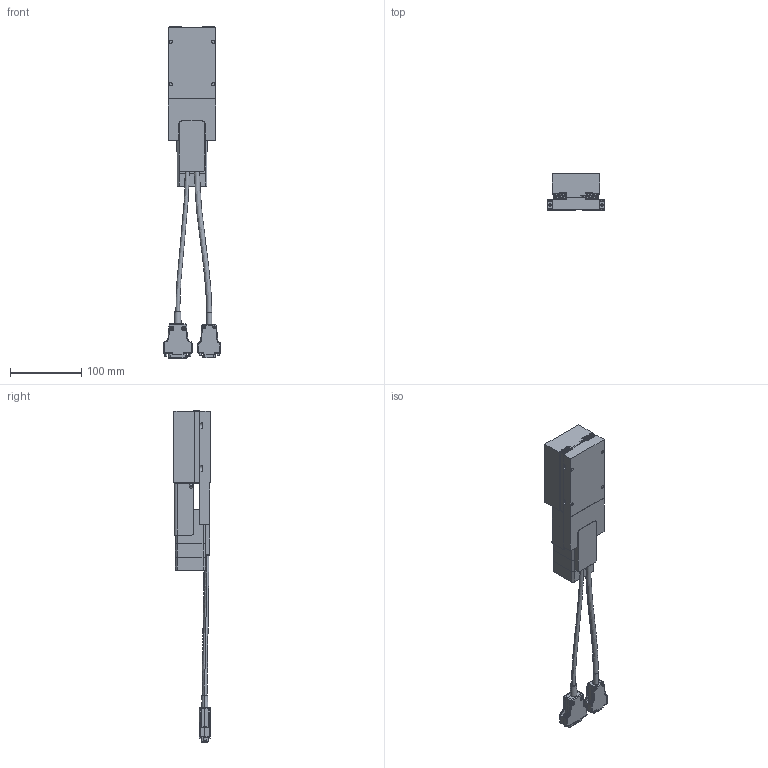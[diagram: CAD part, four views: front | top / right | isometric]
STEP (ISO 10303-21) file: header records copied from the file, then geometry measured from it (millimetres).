
FILE_DESCRIPTION (( 'STEP AP214' ), '1' );
FILE_NAME ('MCS-050-A-H-S-EXPORT.STEP', '2025-09-10T20:06:59', ( 'lab' ), ( '' ), 'SwSTEP 2.0', 'SolidWorks 2018', '' );
FILE_SCHEMA (( 'AUTOMOTIVE_DESIGN' ));
Length unit declared in the file: millimetre
Products named in the file (8): 1000001_file_export8; 1000002_file_export4; 1000007_NSRM; 1000009_file_export7; MCS-050-A-H-S-EXPORT; 1000008_file_export2; 1000003_file_export0; 1000004
Assembly tree (7 placements, depth 2):
  MCS-050-A-H-S-EXPORT
    1000001_file_export8
    1000002_file_export4
    1000003_file_export0
    1000004
    1000007_NSRM
    1000008_file_export2
    1000009_file_export7
Bounding box: 80 x 51 x 467.1 mm (x, y, z)
Volume: 595963.9 mm3; surface area: 144107.1 mm2
Topology: 23 solids, 23 shells, 1450 faces, 3499 edges, 2168 vertices
Faces by surface type: plane 873, cylinder 327, cone 124, torus 114, sphere 8, bspline 4
Entity records: 42986 total; most frequent: CARTESIAN_POINT 7911, DIRECTION 7502, ORIENTED_EDGE 6938, EDGE_CURVE 3469, AXIS2_PLACEMENT_3D 2631, LINE 2240, VECTOR 2240, VERTEX_POINT 2168
